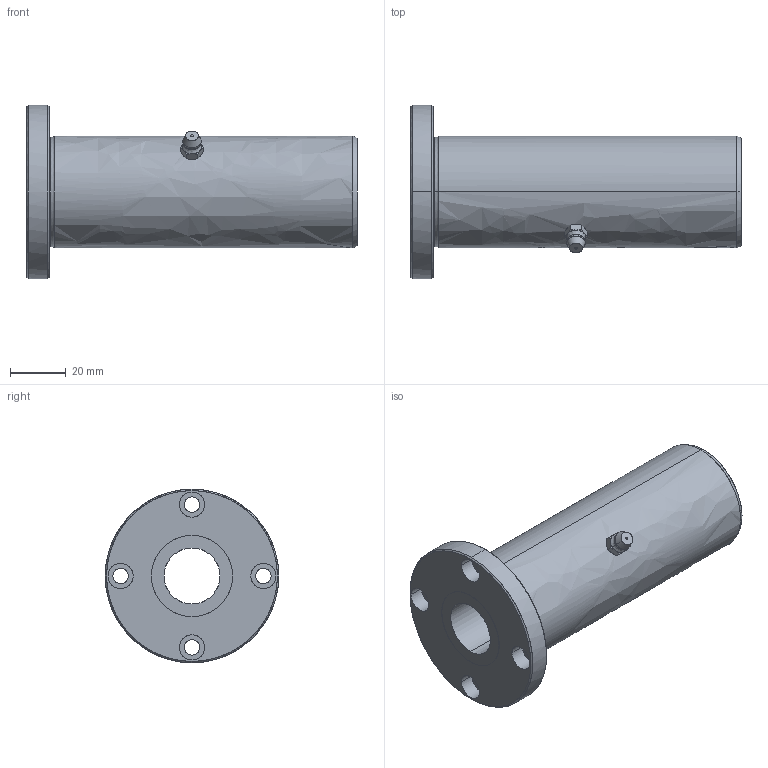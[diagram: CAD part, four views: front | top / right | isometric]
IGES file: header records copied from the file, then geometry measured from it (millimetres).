
Global section: file name: No Iges File Name specified; native system: AutoDesk Inventor R10; preprocessor: AutoDesk Inventor Iges Exporter R10; author: No Author specified; organization: No Organization specified; date: 20101211.161739; units: millimetre
Bounding box: 118 x 62 x 62 mm (x, y, z)
Surface area: 28874 mm2 (no closed solid volume)
Topology: 0 solids, 0 shells, 83 faces, 557 edges, 555 vertices
Faces by surface type: bspline 83
